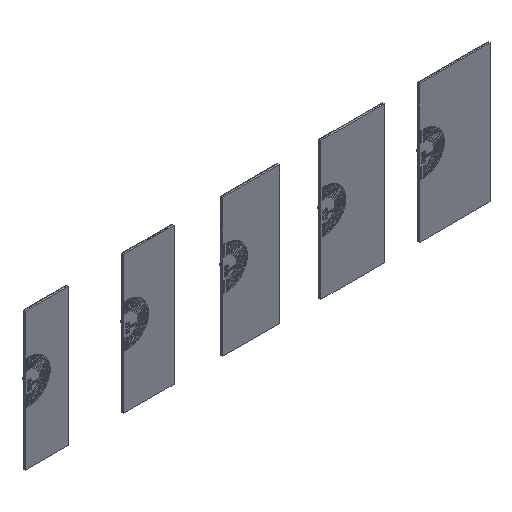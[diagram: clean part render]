
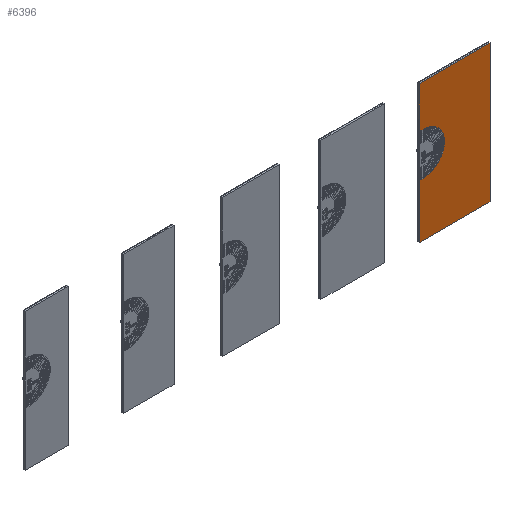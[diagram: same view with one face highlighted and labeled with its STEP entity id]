
A CAD part, isometric view. The second image highlights one B-rep face of the part: STEP entity #6396.
In plain terms, the highlighted planar face has unit normal (0, -1, 0).
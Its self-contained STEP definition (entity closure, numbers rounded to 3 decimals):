
#4084=CIRCLE('',#42056,313.);
#6396=ADVANCED_FACE('',(#9422),#7434,.F.);
#7434=PLANE('',#42057);
#9422=FACE_OUTER_BOUND('',#11760,.T.);
#11760=EDGE_LOOP('',(#21765,#21766,#21767,#21768,#21769,#21770,#21771,#21772));
#21765=ORIENTED_EDGE('',*,*,#31629,.T.);
#21766=ORIENTED_EDGE('',*,*,#31630,.T.);
#21767=ORIENTED_EDGE('',*,*,#31372,.T.);
#21768=ORIENTED_EDGE('',*,*,#31631,.T.);
#21769=ORIENTED_EDGE('',*,*,#31632,.F.);
#21770=ORIENTED_EDGE('',*,*,#31627,.F.);
#21771=ORIENTED_EDGE('',*,*,#31368,.T.);
#21772=ORIENTED_EDGE('',*,*,#31633,.F.);
#26151=VERTEX_POINT('',#70293);
#26152=VERTEX_POINT('',#70295);
#26155=VERTEX_POINT('',#70301);
#26156=VERTEX_POINT('',#70303);
#26382=VERTEX_POINT('',#70795);
#26383=VERTEX_POINT('',#70799);
#26384=VERTEX_POINT('',#70800);
#26385=VERTEX_POINT('',#70803);
#31368=EDGE_CURVE('',#26152,#26151,#34776,.T.);
#31372=EDGE_CURVE('',#26156,#26155,#34780,.T.);
#31627=EDGE_CURVE('',#26152,#26382,#34914,.T.);
#31629=EDGE_CURVE('',#26383,#26384,#4084,.T.);
#31630=EDGE_CURVE('',#26384,#26156,#34916,.T.);
#31631=EDGE_CURVE('',#26155,#26385,#34917,.T.);
#31632=EDGE_CURVE('',#26382,#26385,#34918,.T.);
#31633=EDGE_CURVE('',#26383,#26151,#34919,.T.);
#34776=LINE('',#70294,#37776);
#34780=LINE('',#70302,#37780);
#34914=LINE('',#70794,#37914);
#34916=LINE('',#70801,#37916);
#34917=LINE('',#70802,#37917);
#34918=LINE('',#70804,#37918);
#34919=LINE('',#70805,#37919);
#37776=VECTOR('',#52551,1.);
#37780=VECTOR('',#52555,1.);
#37914=VECTOR('',#52953,1.);
#37916=VECTOR('',#52959,1.);
#37917=VECTOR('',#52960,1.);
#37918=VECTOR('',#52961,1.);
#37919=VECTOR('',#52962,1.);
#42056=AXIS2_PLACEMENT_3D('',#70798,#52957,#52958);
#42057=AXIS2_PLACEMENT_3D('',#70806,#52963,#52964);
#52551=DIRECTION('',(0.,0.,-1.));
#52555=DIRECTION('',(0.,0.,-1.));
#52953=DIRECTION('',(1.,0.,0.));
#52957=DIRECTION('',(0.,1.,0.));
#52958=DIRECTION('',(0.,0.,1.));
#52959=DIRECTION('',(-1.,0.,0.));
#52960=DIRECTION('',(1.,0.,0.));
#52961=DIRECTION('',(0.,0.,-1.));
#52962=DIRECTION('',(-1.,0.,0.));
#52963=DIRECTION('',(0.,1.,0.));
#52964=DIRECTION('',(-1.,0.,0.));
#70293=CARTESIAN_POINT('',(5480.5,-39.3,1417.));
#70294=CARTESIAN_POINT('',(5480.5,-39.3,2027.));
#70295=CARTESIAN_POINT('',(5480.5,-39.3,2027.));
#70301=CARTESIAN_POINT('',(5480.5,-39.3,0.));
#70302=CARTESIAN_POINT('',(5480.5,-39.3,2027.));
#70303=CARTESIAN_POINT('',(5480.5,-39.3,791.));
#70794=CARTESIAN_POINT('',(5680.5,-39.3,2027.));
#70795=CARTESIAN_POINT('',(6519.5,-39.3,2027.));
#70798=CARTESIAN_POINT('',(5535.5,-39.3,1104.));
#70799=CARTESIAN_POINT('',(5535.5,-39.3,1417.));
#70800=CARTESIAN_POINT('',(5535.5,-39.3,791.));
#70801=CARTESIAN_POINT('',(5535.5,-39.3,791.));
#70802=CARTESIAN_POINT('',(5680.5,-39.3,0.));
#70803=CARTESIAN_POINT('',(6519.5,-39.3,0.));
#70804=CARTESIAN_POINT('',(6519.5,-39.3,2027.));
#70805=CARTESIAN_POINT('',(5535.5,-39.3,1417.));
#70806=CARTESIAN_POINT('',(5680.5,-39.3,2027.));
